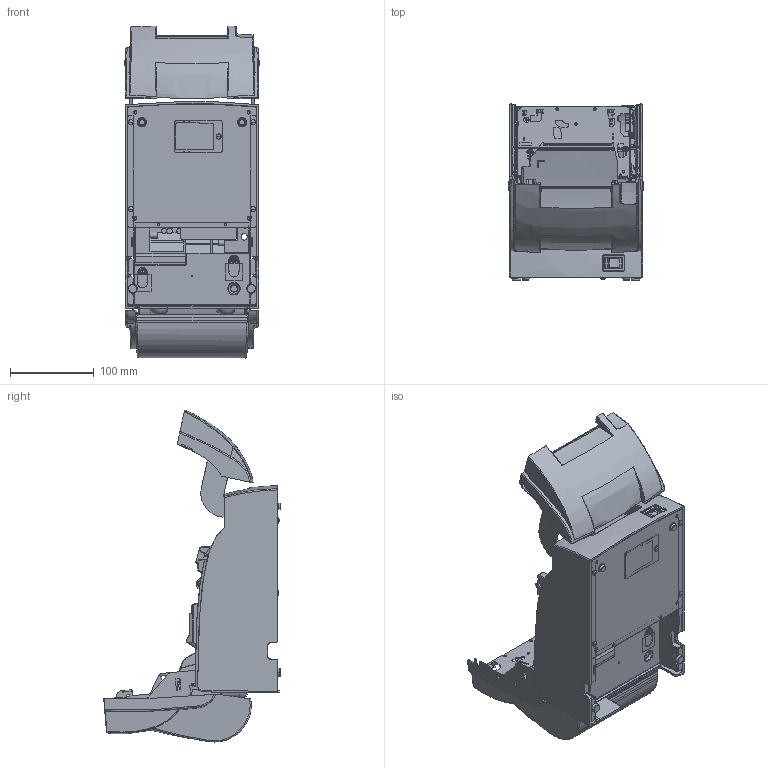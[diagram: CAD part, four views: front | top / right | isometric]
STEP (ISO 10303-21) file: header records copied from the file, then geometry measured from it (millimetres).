
FILE_DESCRIPTION((''),'2;1');
FILE_NAME('TM-U220IIA_OPEN','2024-12-26T14:02:01',('5012938'),(''),'CREO PARAMETRIC BY PTC INC, 2022281','CREO PARAMETRIC BY PTC INC, 2022281','');
FILE_SCHEMA(('AUTOMOTIVE_DESIGN { 1 0 10303 214 1 1 1 1 }'));
Products named in the file (1): TM-U220IIA_OPEN
Bounding box: 162.5 x 211.35 x 397.17 mm (x, y, z)
Surface area: 649859.9 mm2 (no closed solid volume)
Topology: 0 solids, 81 shells, 4738 faces, 14542 edges, 9595 vertices
Faces by surface type: plane 2420, cylinder 1429, bspline 489, cone 152, extrusion 102, torus 93, sphere 53
Entity records: 199912 total; most frequent: CARTESIAN_POINT 74801, ORIENTED_EDGE 26664, DIRECTION 23831, EDGE_CURVE 14522, VERTEX_POINT 9594, VECTOR 8817, LINE 8715, AXIS2_PLACEMENT_3D 7507
